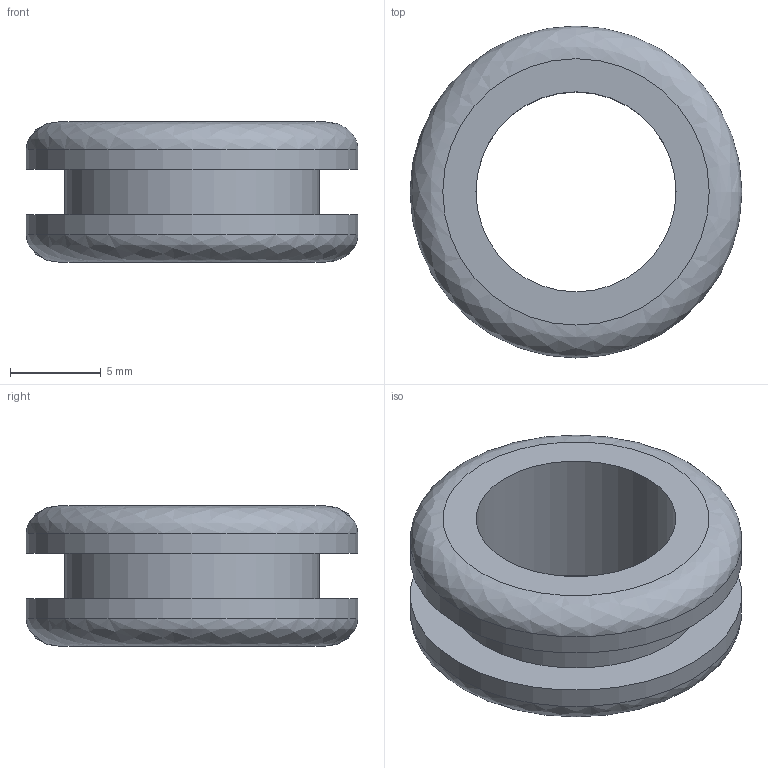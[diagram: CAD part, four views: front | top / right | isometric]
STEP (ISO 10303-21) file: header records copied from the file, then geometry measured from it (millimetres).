
FILE_DESCRIPTION(/* description */ ('','CAx-IF Rec.Pracs.---Representation and Presentation of Product Manufacturing Information (PMI)---4.0---2014-10-13'),/* implementation_level */ '2;1');
FILE_NAME(/* name */ '2911-0014-0003-REV0_InChannel.step',/* time_stamp */ '2025-01-20T14:31:49-06:00',/* author */ (''),/* organization */ (''),/* preprocessor_version */ 'ST-DEVELOPER v20',/* originating_system */ 'Autodesk Translation Framework v13.20.0.188',/* authorisation */ '');
FILE_SCHEMA (('AP242_MANAGED_MODEL_BASED_3D_ENGINEERING_MIM_LF { 1 0 10303 442 1 1 4 }'));
Length unit declared in the file: millimetre
Products named in the file (1): 2911-0014-0003_source
Bounding box: 18.25 x 18.25 x 7.7 mm (x, y, z)
Volume: 949.7 mm3; surface area: 1139.8 mm2
Topology: 1 solids, 1 shells, 10 faces, 18 edges, 12 vertices
Faces by surface type: plane 4, cylinder 4, bspline 2
Full cylindrical faces by diameter (mm): 11 x1, 14 x1, 18.25 x2
Entity records: 344 total; most frequent: CARTESIAN_POINT 93, DIRECTION 50, ORIENTED_EDGE 36, AXIS2_PLACEMENT_3D 23, EDGE_CURVE 18, EDGE_LOOP 14, CIRCLE 12, VERTEX_POINT 12
